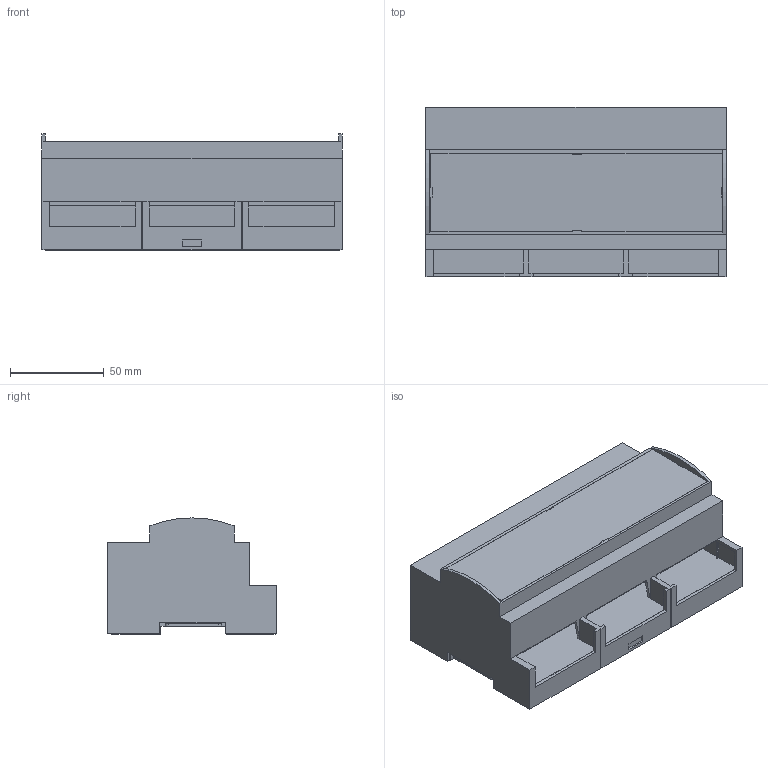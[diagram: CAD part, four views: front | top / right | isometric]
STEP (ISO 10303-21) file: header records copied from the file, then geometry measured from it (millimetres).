
FILE_DESCRIPTION((''),'2;1');
FILE_NAME('15013793Z_DMEC28002683_SCENCOM','2020-02-26T14:01:45',('juergen.hrach'),(''),'CREO PARAMETRIC BY PTC INC, 2019164','CREO PARAMETRIC BY PTC INC, 2019164','');
FILE_SCHEMA(('CONFIG_CONTROL_DESIGN'));
Length unit declared in the file: millimetre
Products named in the file (1): 15013793Z_DMEC28002683_SCENCOM
Bounding box: 160.2 x 90.5 x 62.07 mm (x, y, z)
Volume: 137433.4 mm3; surface area: 160643.5 mm2
Topology: 1 solids, 1 shells, 346 faces, 1056 edges, 694 vertices
Faces by surface type: plane 304, cylinder 42
Entity records: 11788 total; most frequent: CARTESIAN_POINT 2210, ORIENTED_EDGE 2112, DIRECTION 1816, EDGE_CURVE 1056, VECTOR 940, LINE 940, VERTEX_POINT 694, AXIS2_PLACEMENT_3D 438
